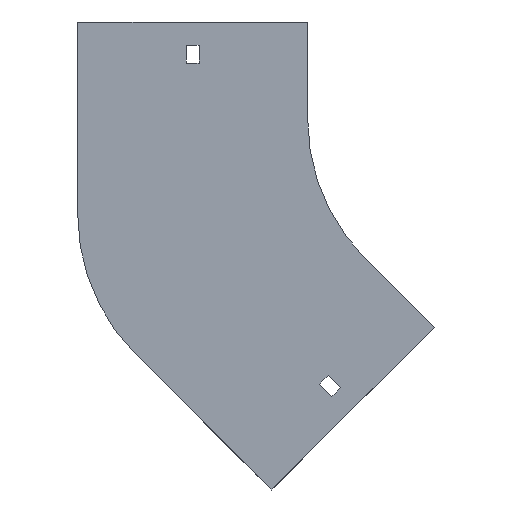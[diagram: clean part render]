
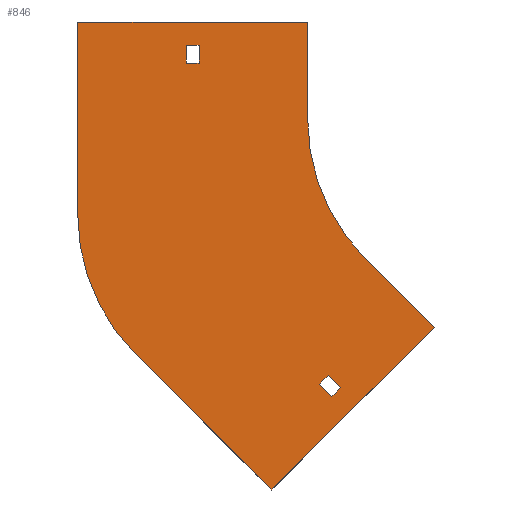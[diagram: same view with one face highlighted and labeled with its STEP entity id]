
A CAD part, front view. The second image highlights one B-rep face of the part: STEP entity #846.
In plain terms, the highlighted planar face has unit normal (0, -1, 0).
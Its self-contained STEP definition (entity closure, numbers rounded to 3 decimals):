
#2 = VECTOR ( 'NONE', #512, 1000. ) ;
#4 = AXIS2_PLACEMENT_3D ( 'NONE', #599, #900, #1048 ) ;
#7 = LINE ( 'NONE', #478, #1393 ) ;
#37 = DIRECTION ( 'NONE',  ( 1., 0., 0. ) ) ;
#82 = CIRCLE ( 'NONE', #1796, 100. ) ;
#84 = VERTEX_POINT ( 'NONE', #975 ) ;
#117 = VECTOR ( 'NONE', #744, 1000. ) ;
#134 = ORIENTED_EDGE ( 'NONE', *, *, #1234, .F. ) ;
#135 = VERTEX_POINT ( 'NONE', #142 ) ;
#142 = CARTESIAN_POINT ( 'NONE',  ( -155.5, 0., 38. ) ) ;
#147 = CARTESIAN_POINT ( 'NONE',  ( -83.085, 0., -136.825 ) ) ;
#158 = CARTESIAN_POINT ( 'NONE',  ( -70.711, 0., -70.711 ) ) ;
#178 = ORIENTED_EDGE ( 'NONE', *, *, #468, .T. ) ;
#184 = CARTESIAN_POINT ( 'NONE',  ( -35.355, 0., -106.066 ) ) ;
#187 = VECTOR ( 'NONE', #1867, 1000. ) ;
#199 = CARTESIAN_POINT ( 'NONE',  ( 0., 0., 0. ) ) ;
#208 = DIRECTION ( 'NONE',  ( 0., 0., -1. ) ) ;
#211 = CARTESIAN_POINT ( 'NONE',  ( -217.5, 0., -48.67 ) ) ;
#232 = CARTESIAN_POINT ( 'NONE',  ( -70.711, 0., -70.711 ) ) ;
#233 = VERTEX_POINT ( 'NONE', #543 ) ;
#239 = VERTEX_POINT ( 'NONE', #850 ) ;
#287 = CARTESIAN_POINT ( 'NONE',  ( -89.449, 0., -130.461 ) ) ;
#298 = ORIENTED_EDGE ( 'NONE', *, *, #1812, .F. ) ;
#314 = VERTEX_POINT ( 'NONE', #1084 ) ;
#316 = ORIENTED_EDGE ( 'NONE', *, *, #1246, .F. ) ;
#331 = DIRECTION ( 'NONE',  ( -0.707, 0., -0.707 ) ) ;
#351 = VERTEX_POINT ( 'NONE', #158 ) ;
#352 = VERTEX_POINT ( 'NONE', #923 ) ;
#381 = EDGE_CURVE ( 'NONE', #1418, #352, #7, .T. ) ;
#409 = VERTEX_POINT ( 'NONE', #1836 ) ;
#420 = VECTOR ( 'NONE', #1141, 1000. ) ;
#447 = VERTEX_POINT ( 'NONE', #637 ) ;
#448 = EDGE_CURVE ( 'NONE', #409, #1179, #1694, .T. ) ;
#468 = EDGE_CURVE ( 'NONE', #352, #84, #659, .T. ) ;
#471 = CARTESIAN_POINT ( 'NONE',  ( -118.44, 0., -189.151 ) ) ;
#474 = VECTOR ( 'NONE', #331, 1000. ) ;
#478 = CARTESIAN_POINT ( 'NONE',  ( -162., 0., 29. ) ) ;
#489 = DIRECTION ( 'NONE',  ( -0.707, 0., 0.707 ) ) ;
#512 = DIRECTION ( 'NONE',  ( 0., 0., 1. ) ) ;
#515 = LINE ( 'NONE', #184, #474 ) ;
#534 = DIRECTION ( 'NONE',  ( 0., 0., 1. ) ) ;
#543 = CARTESIAN_POINT ( 'NONE',  ( -100., 0., 0. ) ) ;
#552 = EDGE_CURVE ( 'NONE', #135, #1418, #1328, .T. ) ;
#575 = VECTOR ( 'NONE', #534, 1000. ) ;
#583 = DIRECTION ( 'NONE',  ( -0.707, 0., 0.707 ) ) ;
#599 = CARTESIAN_POINT ( 'NONE',  ( -117.5, 0., -48.67 ) ) ;
#621 = ORIENTED_EDGE ( 'NONE', *, *, #1138, .F. ) ;
#630 = VERTEX_POINT ( 'NONE', #147 ) ;
#631 = CARTESIAN_POINT ( 'NONE',  ( 0., 0., 0. ) ) ;
#637 = CARTESIAN_POINT ( 'NONE',  ( -87.681, 0., -141.421 ) ) ;
#659 = LINE ( 'NONE', #811, #2 ) ;
#704 = CARTESIAN_POINT ( 'NONE',  ( -94.045, 0., -135.057 ) ) ;
#718 = CARTESIAN_POINT ( 'NONE',  ( -89.449, 0., -130.461 ) ) ;
#744 = DIRECTION ( 'NONE',  ( 0.707, 0., -0.707 ) ) ;
#746 = EDGE_CURVE ( 'NONE', #980, #447, #1348, .T. ) ;
#759 = VERTEX_POINT ( 'NONE', #1874 ) ;
#789 = VERTEX_POINT ( 'NONE', #211 ) ;
#793 = ORIENTED_EDGE ( 'NONE', *, *, #1482, .F. ) ;
#799 = DIRECTION ( 'NONE',  ( 0., 0., -1. ) ) ;
#811 = CARTESIAN_POINT ( 'NONE',  ( -162., 0., 29. ) ) ;
#823 = EDGE_LOOP ( 'NONE', ( #1362, #134, #1586, #1377, #621, #1375, #970, #1101 ) ) ;
#831 = DIRECTION ( 'NONE',  ( 0.707, 0., -0.707 ) ) ;
#846 = ADVANCED_FACE ( 'NONE', ( #948, #1704, #1557 ), #969, .T. ) ;
#850 = CARTESIAN_POINT ( 'NONE',  ( -118.44, 0., -189.151 ) ) ;
#854 = VECTOR ( 'NONE', #1737, 1000. ) ;
#864 = LINE ( 'NONE', #1131, #420 ) ;
#900 = DIRECTION ( 'NONE',  ( 0., 1., 0. ) ) ;
#904 = EDGE_CURVE ( 'NONE', #1179, #233, #982, .T. ) ;
#915 = EDGE_CURVE ( 'NONE', #351, #759, #1932, .T. ) ;
#923 = CARTESIAN_POINT ( 'NONE',  ( -162., 0., 29. ) ) ;
#924 = CARTESIAN_POINT ( 'NONE',  ( -155.5, 0., 29. ) ) ;
#933 = CARTESIAN_POINT ( 'NONE',  ( -162., 0., 38. ) ) ;
#947 = EDGE_LOOP ( 'NONE', ( #178, #1121, #1620, #1408 ) ) ;
#948 = FACE_BOUND ( 'NONE', #947, .T. ) ;
#969 = PLANE ( 'NONE',  #1569 ) ;
#970 = ORIENTED_EDGE ( 'NONE', *, *, #1111, .F. ) ;
#975 = CARTESIAN_POINT ( 'NONE',  ( -162., 0., 38. ) ) ;
#980 = VERTEX_POINT ( 'NONE', #704 ) ;
#982 = LINE ( 'NONE', #1438, #1320 ) ;
#1025 = CARTESIAN_POINT ( 'NONE',  ( -100., 0., 50. ) ) ;
#1048 = DIRECTION ( 'NONE',  ( 0., 0., 1. ) ) ;
#1084 = CARTESIAN_POINT ( 'NONE',  ( -188.211, 0., -119.381 ) ) ;
#1101 = ORIENTED_EDGE ( 'NONE', *, *, #904, .F. ) ;
#1108 = DIRECTION ( 'NONE',  ( 0., -1., 0. ) ) ;
#1111 = EDGE_CURVE ( 'NONE', #233, #351, #82, .T. ) ;
#1112 = DIRECTION ( 'NONE',  ( 0., -1., 0. ) ) ;
#1121 = ORIENTED_EDGE ( 'NONE', *, *, #1468, .T. ) ;
#1131 = CARTESIAN_POINT ( 'NONE',  ( -94.045, 0., -135.057 ) ) ;
#1136 = CARTESIAN_POINT ( 'NONE',  ( -217.5, 0., 50. ) ) ;
#1138 = EDGE_CURVE ( 'NONE', #759, #239, #515, .T. ) ;
#1141 = DIRECTION ( 'NONE',  ( -0.707, 0., -0.707 ) ) ;
#1179 = VERTEX_POINT ( 'NONE', #1025 ) ;
#1234 = EDGE_CURVE ( 'NONE', #789, #409, #1774, .T. ) ;
#1245 = LINE ( 'NONE', #471, #1267 ) ;
#1246 = EDGE_CURVE ( 'NONE', #1733, #980, #864, .T. ) ;
#1267 = VECTOR ( 'NONE', #489, 1000. ) ;
#1320 = VECTOR ( 'NONE', #1484, 1000. ) ;
#1328 = LINE ( 'NONE', #1463, #1363 ) ;
#1348 = LINE ( 'NONE', #1940, #117 ) ;
#1353 = ORIENTED_EDGE ( 'NONE', *, *, #746, .F. ) ;
#1362 = ORIENTED_EDGE ( 'NONE', *, *, #448, .F. ) ;
#1363 = VECTOR ( 'NONE', #1474, 1000. ) ;
#1375 = ORIENTED_EDGE ( 'NONE', *, *, #915, .F. ) ;
#1377 = ORIENTED_EDGE ( 'NONE', *, *, #1526, .F. ) ;
#1393 = VECTOR ( 'NONE', #1818, 1000. ) ;
#1398 = EDGE_LOOP ( 'NONE', ( #793, #1353, #316, #298 ) ) ;
#1408 = ORIENTED_EDGE ( 'NONE', *, *, #381, .T. ) ;
#1418 = VERTEX_POINT ( 'NONE', #924 ) ;
#1434 = CARTESIAN_POINT ( 'NONE',  ( -217.5, 0., -48.67 ) ) ;
#1438 = CARTESIAN_POINT ( 'NONE',  ( -100., 0., 50. ) ) ;
#1463 = CARTESIAN_POINT ( 'NONE',  ( -155.5, 0., 29. ) ) ;
#1468 = EDGE_CURVE ( 'NONE', #84, #135, #1855, .T. ) ;
#1474 = DIRECTION ( 'NONE',  ( 0., 0., -1. ) ) ;
#1482 = EDGE_CURVE ( 'NONE', #447, #630, #1685, .T. ) ;
#1484 = DIRECTION ( 'NONE',  ( 0., 0., -1. ) ) ;
#1526 = EDGE_CURVE ( 'NONE', #239, #314, #1245, .T. ) ;
#1536 = VECTOR ( 'NONE', #831, 1000. ) ;
#1557 = FACE_BOUND ( 'NONE', #1398, .T. ) ;
#1569 = AXIS2_PLACEMENT_3D ( 'NONE', #199, #1112, #799 ) ;
#1586 = ORIENTED_EDGE ( 'NONE', *, *, #1729, .F. ) ;
#1618 = CIRCLE ( 'NONE', #4, 100. ) ;
#1620 = ORIENTED_EDGE ( 'NONE', *, *, #552, .T. ) ;
#1649 = VECTOR ( 'NONE', #37, 1000. ) ;
#1685 = LINE ( 'NONE', #1837, #187 ) ;
#1694 = LINE ( 'NONE', #1136, #854 ) ;
#1704 = FACE_OUTER_BOUND ( 'NONE', #823, .T. ) ;
#1729 = EDGE_CURVE ( 'NONE', #314, #789, #1618, .T. ) ;
#1733 = VERTEX_POINT ( 'NONE', #718 ) ;
#1737 = DIRECTION ( 'NONE',  ( 1., 0., 0. ) ) ;
#1774 = LINE ( 'NONE', #1434, #575 ) ;
#1796 = AXIS2_PLACEMENT_3D ( 'NONE', #631, #1108, #208 ) ;
#1812 = EDGE_CURVE ( 'NONE', #630, #1733, #1941, .T. ) ;
#1818 = DIRECTION ( 'NONE',  ( -1., 0., 0. ) ) ;
#1832 = VECTOR ( 'NONE', #583, 1000. ) ;
#1836 = CARTESIAN_POINT ( 'NONE',  ( -217.5, 0., 50. ) ) ;
#1837 = CARTESIAN_POINT ( 'NONE',  ( -87.681, 0., -141.421 ) ) ;
#1855 = LINE ( 'NONE', #933, #1649 ) ;
#1867 = DIRECTION ( 'NONE',  ( 0.707, 0., 0.707 ) ) ;
#1874 = CARTESIAN_POINT ( 'NONE',  ( -35.355, 0., -106.066 ) ) ;
#1932 = LINE ( 'NONE', #232, #1536 ) ;
#1940 = CARTESIAN_POINT ( 'NONE',  ( -94.045, 0., -135.057 ) ) ;
#1941 = LINE ( 'NONE', #287, #1832 ) ;
